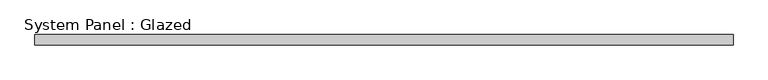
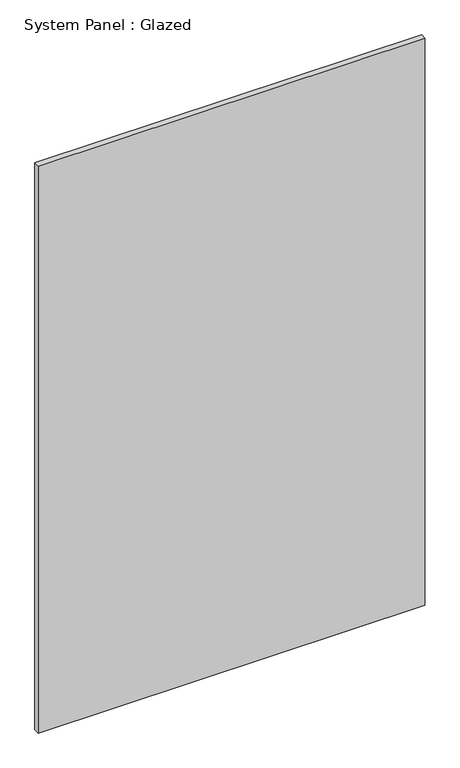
"""IFC4 building model written with IfcOpenShell, lengths in millimetres: plate geometry, System Panel : Glazed."""

from ifc_helpers import new_model, si_unit, origin, origin_with_axes, place, context, project, spatial, polyline, outline, extrude, source, transform, mapped, element, save


def system_panel_glazed_e8eba25c(model_context):
    return source(origin(), model_context, "Body", "SweptSolid", [
        extrude(outline(polyline([(874.7173453, 19.05), (-874.7173453, 19.05), (-874.7173453, 44.45), (874.7173453, 44.45), (874.7173453, 19.05)])), origin_with_axes(), (0.0, 0.0, 1.0), 2711.4294337),
    ])


if __name__ == "__main__":
    model = new_model("IFC4")
    model_context = context("Model", 3, world=origin())
    ifc_project = project(units=[si_unit("LENGTHUNIT", "METRE", prefix="MILLI")], contexts=[model_context])
    site = spatial("IfcSite", under=ifc_project)
    building = spatial("IfcBuilding", under=site)
    placement = place(None, origin())
    system_panel_glazed_shape = system_panel_glazed_e8eba25c(model_context)
    element("IfcPlate", 1, ObjectType="System Panel : Glazed", at=placement, inside=building, context=model_context, shape_type="MappedRepresentation", body=[
        mapped(system_panel_glazed_shape, transform((0.0, 0.0, 0.0), x_axis=(1.0, 0.0, 0.0), y_axis=(0.0, 1.0, 0.0), z_axis=(0.0, 0.0, 1.0))),
    ])
    save(model, "model.ifc")
